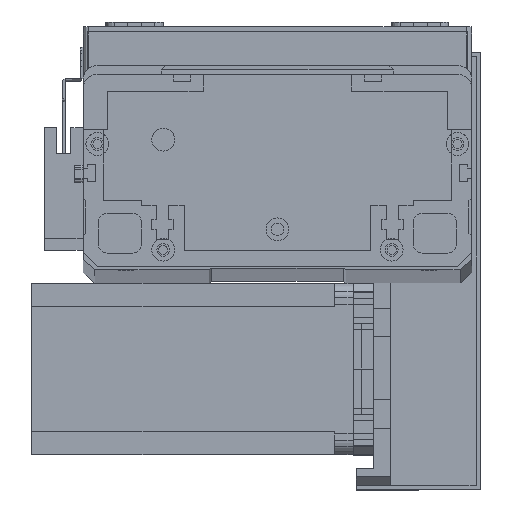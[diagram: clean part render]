
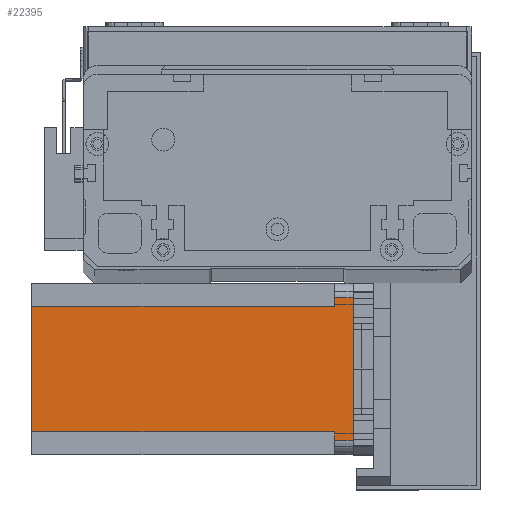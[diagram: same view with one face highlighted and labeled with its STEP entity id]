
A CAD part, top view. The second image highlights one B-rep face of the part: STEP entity #22395.
In plain terms, the highlighted planar face has unit normal (0, 0, 1) as drawn and (0, -1, 0) by its records, which use the part's own axes.
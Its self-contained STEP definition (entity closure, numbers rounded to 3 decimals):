
#539 = EDGE_CURVE ( 'NONE', #808, #7625, #30590, .T. ) ;
#808 = VERTEX_POINT ( 'NONE', #25606 ) ;
#980 = LINE ( 'NONE', #17260, #19492 ) ;
#1246 = CARTESIAN_POINT ( 'NONE',  ( 8., 0., -6.5 ) ) ;
#1655 = ORIENTED_EDGE ( 'NONE', *, *, #14341, .T. ) ;
#1707 = VERTEX_POINT ( 'NONE', #17017 ) ;
#2017 = VECTOR ( 'NONE', #2564, 1000. ) ;
#2502 = CARTESIAN_POINT ( 'NONE',  ( 55., 0., -112.5 ) ) ;
#2564 = DIRECTION ( 'NONE',  ( 0., 0., -1. ) ) ;
#2574 = EDGE_CURVE ( 'NONE', #15619, #7625, #22903, .T. ) ;
#2597 = VECTOR ( 'NONE', #21182, 1000. ) ;
#3327 = EDGE_CURVE ( 'NONE', #9982, #1707, #15504, .T. ) ;
#3968 = PLANE ( 'NONE',  #18190 ) ;
#4069 = EDGE_CURVE ( 'NONE', #18720, #808, #29692, .T. ) ;
#4661 = CARTESIAN_POINT ( 'NONE',  ( 52., 0., -6.5 ) ) ;
#4683 = CARTESIAN_POINT ( 'NONE',  ( 52., 0., -112.5 ) ) ;
#5198 = ORIENTED_EDGE ( 'NONE', *, *, #12005, .T. ) ;
#5249 = LINE ( 'NONE', #2502, #23525 ) ;
#6575 = ORIENTED_EDGE ( 'NONE', *, *, #4069, .F. ) ;
#6841 = DIRECTION ( 'NONE',  ( 1., 0., 0. ) ) ;
#7625 = VERTEX_POINT ( 'NONE', #20017 ) ;
#7710 = DIRECTION ( 'NONE',  ( 0., 0., 1. ) ) ;
#7715 = CARTESIAN_POINT ( 'NONE',  ( 8., 0., -112.5 ) ) ;
#7859 = ORIENTED_EDGE ( 'NONE', *, *, #26478, .F. ) ;
#9513 = ORIENTED_EDGE ( 'NONE', *, *, #12253, .F. ) ;
#9982 = VERTEX_POINT ( 'NONE', #4661 ) ;
#11263 = DIRECTION ( 'NONE',  ( 0., -1., 0. ) ) ;
#11662 = VERTEX_POINT ( 'NONE', #22693 ) ;
#12005 = EDGE_CURVE ( 'NONE', #18720, #26973, #28928, .T. ) ;
#12253 = EDGE_CURVE ( 'NONE', #15619, #11662, #980, .T. ) ;
#13989 = CARTESIAN_POINT ( 'NONE',  ( 8., 0., -112.5 ) ) ;
#14032 = ORIENTED_EDGE ( 'NONE', *, *, #2574, .T. ) ;
#14306 = VECTOR ( 'NONE', #6841, 1000. ) ;
#14341 = EDGE_CURVE ( 'NONE', #1707, #11662, #5249, .T. ) ;
#14446 = CARTESIAN_POINT ( 'NONE',  ( 5., 0., -112.5 ) ) ;
#15504 = LINE ( 'NONE', #21364, #2597 ) ;
#15619 = VERTEX_POINT ( 'NONE', #28716 ) ;
#16773 = VECTOR ( 'NONE', #22780, 1000. ) ;
#17017 = CARTESIAN_POINT ( 'NONE',  ( 55., 0., -6.5 ) ) ;
#17260 = CARTESIAN_POINT ( 'NONE',  ( 0., 0., 0. ) ) ;
#17820 = FACE_OUTER_BOUND ( 'NONE', #28753, .T. ) ;
#18072 = VECTOR ( 'NONE', #7710, 1000. ) ;
#18073 = DIRECTION ( 'NONE',  ( 0., 0., -1. ) ) ;
#18177 = ORIENTED_EDGE ( 'NONE', *, *, #539, .F. ) ;
#18190 = AXIS2_PLACEMENT_3D ( 'NONE', #18401, #11263, #27753 ) ;
#18401 = CARTESIAN_POINT ( 'NONE',  ( 0., 0., -112.5 ) ) ;
#18549 = ORIENTED_EDGE ( 'NONE', *, *, #3327, .T. ) ;
#18720 = VERTEX_POINT ( 'NONE', #13989 ) ;
#19492 = VECTOR ( 'NONE', #26632, 1000. ) ;
#20017 = CARTESIAN_POINT ( 'NONE',  ( 5., 0., -6.5 ) ) ;
#21160 = CARTESIAN_POINT ( 'NONE',  ( 0., 0., -112.5 ) ) ;
#21182 = DIRECTION ( 'NONE',  ( 1., 0., 0. ) ) ;
#21364 = CARTESIAN_POINT ( 'NONE',  ( 52., 0., -6.5 ) ) ;
#22395 = ADVANCED_FACE ( 'NONE', ( #17820 ), #3968, .T. ) ;
#22693 = CARTESIAN_POINT ( 'NONE',  ( 55., 0., 0. ) ) ;
#22780 = DIRECTION ( 'NONE',  ( -1., 0., 0. ) ) ;
#22903 = LINE ( 'NONE', #14446, #29031 ) ;
#23525 = VECTOR ( 'NONE', #23967, 1000. ) ;
#23967 = DIRECTION ( 'NONE',  ( 0., 0., 1. ) ) ;
#25606 = CARTESIAN_POINT ( 'NONE',  ( 8., 0., -6.5 ) ) ;
#26334 = CARTESIAN_POINT ( 'NONE',  ( 52., 0., -112.5 ) ) ;
#26478 = EDGE_CURVE ( 'NONE', #9982, #26973, #27384, .T. ) ;
#26632 = DIRECTION ( 'NONE',  ( 1., 0., 0. ) ) ;
#26973 = VERTEX_POINT ( 'NONE', #4683 ) ;
#27384 = LINE ( 'NONE', #26334, #2017 ) ;
#27753 = DIRECTION ( 'NONE',  ( 0., 0., -1. ) ) ;
#28716 = CARTESIAN_POINT ( 'NONE',  ( 5., 0., 0. ) ) ;
#28753 = EDGE_LOOP ( 'NONE', ( #18549, #1655, #9513, #14032, #18177, #6575, #5198, #7859 ) ) ;
#28928 = LINE ( 'NONE', #21160, #14306 ) ;
#29031 = VECTOR ( 'NONE', #18073, 1000. ) ;
#29692 = LINE ( 'NONE', #7715, #18072 ) ;
#30590 = LINE ( 'NONE', #1246, #16773 ) ;
